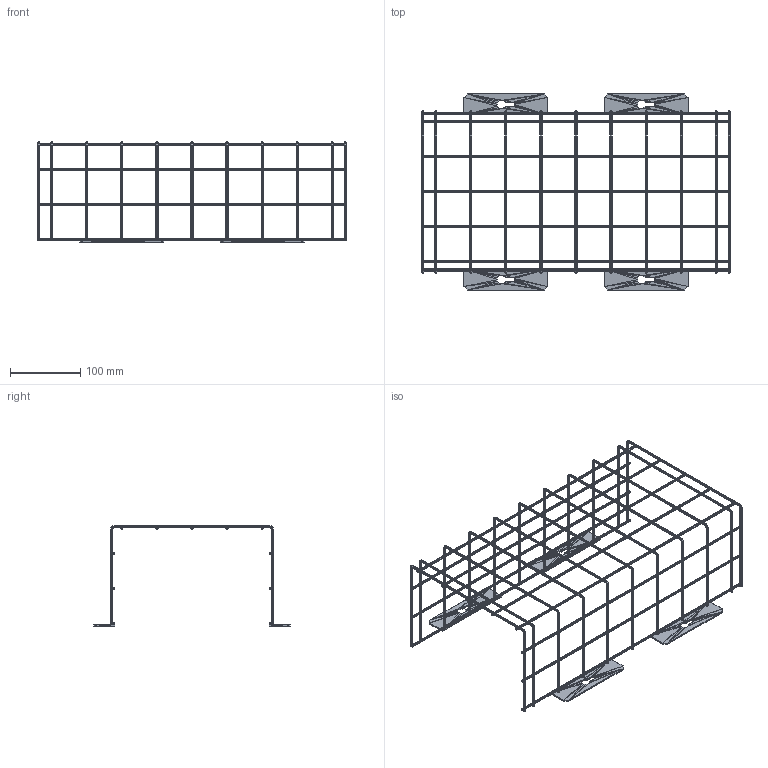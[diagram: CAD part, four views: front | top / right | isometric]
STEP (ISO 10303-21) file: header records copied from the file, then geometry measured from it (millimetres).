
FILE_DESCRIPTION((''),'2;1');
FILE_NAME('001610', '2025-07-16T12:19:19', (''), (''), 'ImageToStl.com STEP Converter','', '');
FILE_SCHEMA(('AUTOMOTIVE_DESIGN_CC2'));
Length unit declared in the file: metre
Products named in the file (1): product0
Bounding box: 440 x 280 x 143.5 mm (x, y, z)
Surface area: 127228 mm2 (no closed solid volume)
Topology: 0 solids, 4112 shells, 4112 faces, 12336 edges, 2100 vertices
Faces by surface type: plane 4112
Entity records: 94692 total; most frequent: DIRECTION 20562, ORIENTED_EDGE 12336, EDGE_CURVE 12336, LINE 12336, VECTOR 12336, AXIS2_PLACEMENT_3D 4113, FACE_SURFACE 4112, PLANE 4112
